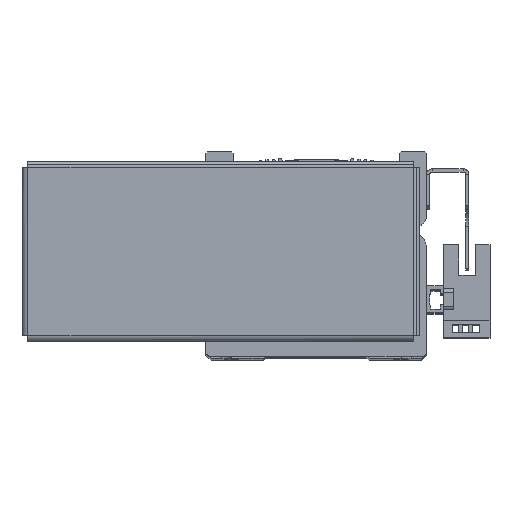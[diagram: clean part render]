
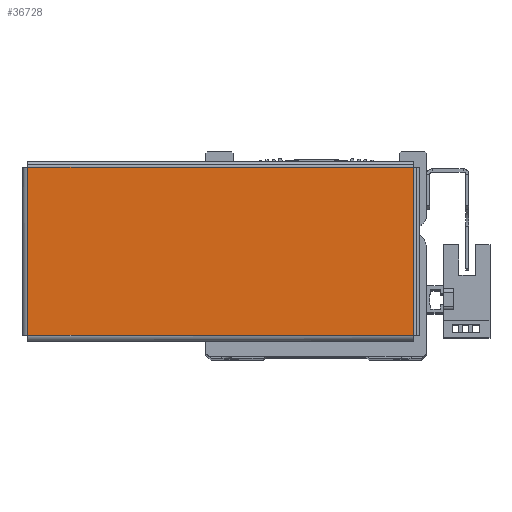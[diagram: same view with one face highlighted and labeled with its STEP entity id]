
A CAD part, top view. The second image highlights one B-rep face of the part: STEP entity #36728.
In plain terms, the highlighted planar face has unit normal (0, 0, 1) as drawn and (0, 0, -1) by its records, which use the part's own axes.
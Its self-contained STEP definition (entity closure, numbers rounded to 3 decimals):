
#361 = FACE_OUTER_BOUND ( 'NONE', #17346, .T. ) ;
#1586 = PLANE ( 'NONE',  #36362 ) ;
#1617 = CARTESIAN_POINT ( 'NONE',  ( 0., 0., -1. ) ) ;
#1621 = DIRECTION ( 'NONE',  ( 0., 0., 1. ) ) ;
#1622 = DIRECTION ( 'NONE',  ( 1., 0., 0. ) ) ;
#4277 = EDGE_CURVE ( 'NONE', #7769, #7758, #21338, .T. ) ;
#4286 = EDGE_CURVE ( 'NONE', #7758, #9044, #21321, .T. ) ;
#4302 = EDGE_CURVE ( 'NONE', #9043, #7769, #21369, .T. ) ;
#4311 = EDGE_CURVE ( 'NONE', #9044, #9043, #21409, .T. ) ;
#7495 = ORIENTED_EDGE ( 'NONE', *, *, #4302, .T. ) ;
#7521 = ORIENTED_EDGE ( 'NONE', *, *, #4286, .T. ) ;
#7541 = ORIENTED_EDGE ( 'NONE', *, *, #4311, .T. ) ;
#7561 = ORIENTED_EDGE ( 'NONE', *, *, #4277, .T. ) ;
#7758 = VERTEX_POINT ( 'NONE', #26309 ) ;
#7769 = VERTEX_POINT ( 'NONE', #26368 ) ;
#9043 = VERTEX_POINT ( 'NONE', #26485 ) ;
#9044 = VERTEX_POINT ( 'NONE', #26486 ) ;
#17346 = EDGE_LOOP ( 'NONE', ( #7521, #7541, #7495, #7561 ) ) ;
#21321 = LINE ( 'NONE', #22136, #21328 ) ;
#21328 = VECTOR ( 'NONE', #22144, 1000. ) ;
#21338 = LINE ( 'NONE', #22105, #21356 ) ;
#21356 = VECTOR ( 'NONE', #22119, 1000. ) ;
#21369 = LINE ( 'NONE', #22162, #21407 ) ;
#21373 = VECTOR ( 'NONE', #22234, 1000. ) ;
#21407 = VECTOR ( 'NONE', #22175, 1000. ) ;
#21409 = LINE ( 'NONE', #22211, #21373 ) ;
#22105 = CARTESIAN_POINT ( 'NONE',  ( -56.893, 24.763, -1. ) ) ;
#22119 = DIRECTION ( 'NONE',  ( 1., 0., 0. ) ) ;
#22136 = CARTESIAN_POINT ( 'NONE',  ( 56.863, 24.793, -1. ) ) ;
#22144 = DIRECTION ( 'NONE',  ( 0., -1., 0. ) ) ;
#22162 = CARTESIAN_POINT ( 'NONE',  ( -56.863, -24.793, -1. ) ) ;
#22175 = DIRECTION ( 'NONE',  ( 0., 1., 0. ) ) ;
#22211 = CARTESIAN_POINT ( 'NONE',  ( 56.893, -24.763, -1. ) ) ;
#22234 = DIRECTION ( 'NONE',  ( -1., 0., 0. ) ) ;
#26309 = CARTESIAN_POINT ( 'NONE',  ( 56.863, 24.763, -1. ) ) ;
#26368 = CARTESIAN_POINT ( 'NONE',  ( -56.863, 24.763, -1. ) ) ;
#26485 = CARTESIAN_POINT ( 'NONE',  ( -56.863, -24.763, -1. ) ) ;
#26486 = CARTESIAN_POINT ( 'NONE',  ( 56.863, -24.763, -1. ) ) ;
#36362 = AXIS2_PLACEMENT_3D ( 'NONE', #1617, #1621, #1622 ) ;
#36728 = ADVANCED_FACE ( 'NONE', ( #361 ), #1586, .F. ) ;
